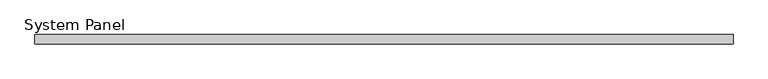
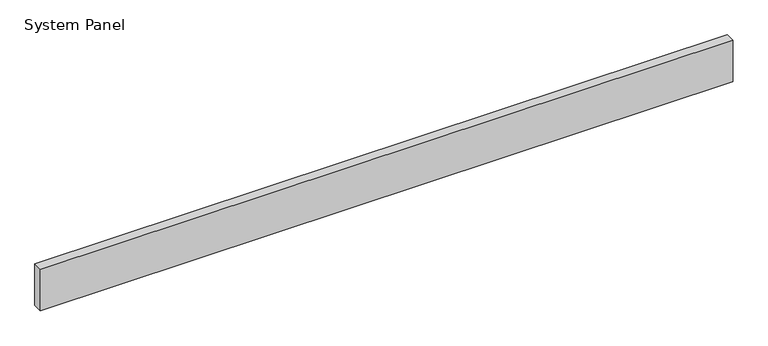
"""IFC4 building model written with IfcOpenShell, lengths in millimetres: plate geometry, System Panel : Inspire 80mm Horizontal - Plain RHEA-PIR."""

import ifcopenshell
import ifcopenshell.guid

model = None  # the IFC model being written
_history = None  # IfcOwnerHistory: only IFC2X3 demands one
_inside = {}  # id of a spatial element -> (the spatial element, [elements in it])
_under = {}  # id of a project, library or spatial element -> (it, [spatial elements below it])
_declared = {}  # id of a project -> (the project, [libraries it declares])
_typed = {}  # id of a type object -> (the type object, [elements of that type])
_made_of = {}  # id of a material, layer set ... -> (it, [elements and type objects made of it])


def new_model(schema):
    """Start an empty IFC model of exactly this schema.

    Asked for "IFC4X3", IfcOpenShell would pick the latest addendum, in which some entities
    have other attributes; the version numbers below select the first issue.
    IFC2X3 requires an IfcOwnerHistory on every rooted entity: one is made here for all.
    """
    global model, _history
    if schema == "IFC4X3":
        model = ifcopenshell.file(schema_version=(4, 3, 0, 0))
    else:
        model = ifcopenshell.file(schema=schema)
    _inside.clear()
    _under.clear()
    _declared.clear()
    _typed.clear()
    _made_of.clear()
    _history = None
    if model.schema == "IFC2X3":
        org = make("IfcOrganization", Name="unknown")
        user = make(
            "IfcPersonAndOrganization",
            ThePerson=make("IfcPerson", FamilyName="unknown"),
            TheOrganization=org,
        )
        app = make(
            "IfcApplication",
            ApplicationDeveloper=org,
            Version="unknown",
            ApplicationFullName="unknown",
            ApplicationIdentifier="unknown",
        )
        _history = make(
            "IfcOwnerHistory",
            OwningUser=user,
            OwningApplication=app,
            ChangeAction="ADDED",
            CreationDate=0,
        )
    return model


def make(cls, **values):
    """One entity of the class cls with the attributes given. An attribute that is None is left unset."""
    return model.create_entity(
        cls, **{name: value for name, value in values.items() if value is not None}
    )


def rooted(cls, **values):
    """An entity with a GlobalId (a new one), such as an element, a storey or a relation."""
    return make(cls, GlobalId=ifcopenshell.guid.new(), OwnerHistory=_history, **values)


def si_unit(unit_type, name, prefix=None):
    """IfcSIUnit, for example si_unit("LENGTHUNIT", "METRE", prefix="MILLI")."""
    return make("IfcSIUnit", UnitType=unit_type, Prefix=prefix, Name=name)


def assignment(units):
    """IfcUnitAssignment: the units of a project."""
    return None if units is None else make("IfcUnitAssignment", Units=units)


def point(xyz):
    """IfcCartesianPoint."""
    return None if xyz is None else make("IfcCartesianPoint", Coordinates=xyz)


def direction(xyz):
    """IfcDirection."""
    return None if xyz is None else make("IfcDirection", DirectionRatios=xyz)


def frame(location, z_axis=None, x_axis=None):
    """IfcAxis2Placement3D, a coordinate frame: its origin and axes. An axis left out is left unset."""
    return make(
        "IfcAxis2Placement3D",
        Location=point(location),
        Axis=direction(z_axis),
        RefDirection=direction(x_axis),
    )


def origin():
    """The frame at (0, 0, 0) with its axes left unset."""
    return frame((0.0, 0.0, 0.0))


def origin_with_axes():
    """The frame at (0, 0, 0) with the z axis (0, 0, 1) and the x axis (1, 0, 0) written out."""
    return frame((0.0, 0.0, 0.0), z_axis=(0.0, 0.0, 1.0), x_axis=(1.0, 0.0, 0.0))


def place(relative_to, where):
    """IfcLocalPlacement: puts the frame where relative to a parent placement (None: the world)."""
    return make(
        "IfcLocalPlacement", PlacementRelTo=relative_to, RelativePlacement=where
    )


def context(
    kind, dimensions, precision=None, world=None, true_north=None, identifier=None
):
    """IfcGeometricRepresentationContext, for example the 3D "Model" context."""
    return make(
        "IfcGeometricRepresentationContext",
        ContextIdentifier=identifier,
        ContextType=kind,
        CoordinateSpaceDimension=dimensions,
        Precision=precision,
        WorldCoordinateSystem=world,
        TrueNorth=true_north,
    )


def project(units=None, contexts=None):
    """IfcProject with its units and contexts."""
    return rooted(
        "IfcProject",
        Name="project",
        RepresentationContexts=contexts,
        UnitsInContext=assignment(units),
    )


def spatial(cls, under=None, at=None, **own):
    """A site, building, storey or space (cls), placed at a placement, below another one or the project."""
    s = rooted(cls, ObjectPlacement=at, **own)
    if under is not None:
        _under.setdefault(under.id(), (under, []))[1].append(s)
    return s


def polyline(points):
    """IfcPolyline through the points."""
    return make("IfcPolyline", Points=[point(p) for p in points])


def outline(outer, holes=None, kind="AREA"):
    """IfcArbitraryClosedProfileDef: a profile drawn as a closed curve; with holes, ...WithVoids."""
    if holes is None:
        return make("IfcArbitraryClosedProfileDef", ProfileType=kind, OuterCurve=outer)
    return make(
        "IfcArbitraryProfileDefWithVoids",
        ProfileType=kind,
        OuterCurve=outer,
        InnerCurves=holes,
    )


def extrude(swept, where, along, depth):
    """IfcExtrudedAreaSolid: the profile swept, set in the frame where, extruded along a direction by depth."""
    return make(
        "IfcExtrudedAreaSolid",
        SweptArea=swept,
        Position=where,
        ExtrudedDirection=direction(along),
        Depth=depth,
    )


def shape(context_of_items, identifier, shape_type, items):
    """IfcShapeRepresentation: the items that make up one representation, for example the "Body"."""
    return make(
        "IfcShapeRepresentation",
        ContextOfItems=context_of_items,
        RepresentationIdentifier=identifier,
        RepresentationType=shape_type,
        Items=items,
    )


def source(mapping_origin, context_of_items, identifier, shape_type, items):
    """IfcRepresentationMap: a shape defined once, which mapped items show again and again."""
    return make(
        "IfcRepresentationMap",
        MappingOrigin=mapping_origin,
        MappedRepresentation=shape(context_of_items, identifier, shape_type, items),
    )


def transform(
    local_origin,
    x_axis=None,
    y_axis=None,
    z_axis=None,
    scale=None,
    scale2=None,
    scale3=None,
    uniform=True,
):
    """IfcCartesianTransformationOperator3D, or its non-uniform kind. x_axis, y_axis, z_axis: its Axis1, 2, 3."""
    if uniform:
        return make(
            "IfcCartesianTransformationOperator3D",
            Axis1=direction(x_axis),
            Axis2=direction(y_axis),
            LocalOrigin=point(local_origin),
            Scale=scale,
            Axis3=direction(z_axis),
        )
    return make(
        "IfcCartesianTransformationOperator3DnonUniform",
        Axis1=direction(x_axis),
        Axis2=direction(y_axis),
        LocalOrigin=point(local_origin),
        Scale=scale,
        Axis3=direction(z_axis),
        Scale2=scale2,
        Scale3=scale3,
    )


def mapped(mapping_source, mapping_target):
    """IfcMappedItem: shows the shape of a source again, moved by a transform."""
    return make(
        "IfcMappedItem", MappingSource=mapping_source, MappingTarget=mapping_target
    )


def made_of(thing, what):
    """Note that an element or type object is made of a material, layer set ...; save() writes the relation."""
    if what is not None:
        _made_of.setdefault(what.id(), (what, []))[1].append(thing)
    return thing


def element(
    cls,
    number,
    at=None,
    inside=None,
    cuts=None,
    type_object=None,
    material=None,
    context=None,
    identifier="Body",
    shape_type=None,
    held_by="IfcProductDefinitionShape",
    body=None,
    shapes=None,
    **own,
):
    """One element of the class cls, such as IfcWall. Its Tag is "e" and its number.

    at: its placement. inside: the storey or other place that contains it. cuts: it is an
    opening in that element (IfcRelVoidsElement). A single representation is given by context,
    identifier, shape_type and body (its items); several are given by shapes. held_by: the class
    of the entity that holds the representations. save() writes the other relations.
    """
    e = rooted(cls, Tag="e%d" % number, ObjectPlacement=at, **own)
    if body is not None:
        shapes = [shape(context, identifier, shape_type, body)]
    if shapes is not None:
        e.Representation = make(held_by, Representations=shapes)
    if inside is not None:
        _inside.setdefault(inside.id(), (inside, []))[1].append(e)
    if cuts is not None:
        rooted(
            "IfcRelVoidsElement", RelatingBuildingElement=cuts, RelatedOpeningElement=e
        )
    if type_object is not None:
        _typed.setdefault(type_object.id(), (type_object, []))[1].append(e)
    return made_of(e, material)


def aggregate(whole, parts):
    """IfcRelAggregates: a whole, such as a stair, and the parts it consists of."""
    return rooted("IfcRelAggregates", RelatingObject=whole, RelatedObjects=parts)


def save(model, path):
    """Write the relations noted so far, then the file.

    IfcRelAggregates (storeys below a building ...), IfcRelContainedInSpatialStructure (elements
    in a storey), IfcRelDefinesByType, IfcRelAssociatesMaterial and IfcRelDeclares: one each for
    every whole, place, type object, material and project.
    """
    for whole, parts in _under.values():
        aggregate(whole, parts)
    for where, things in _inside.values():
        rooted(
            "IfcRelContainedInSpatialStructure",
            RelatedElements=things,
            RelatingStructure=where,
        )
    for kind, things in _typed.values():
        rooted("IfcRelDefinesByType", RelatedObjects=things, RelatingType=kind)
    for what, things in _made_of.values():
        rooted("IfcRelAssociatesMaterial", RelatedObjects=things, RelatingMaterial=what)
    for by, libraries in _declared.values():
        rooted("IfcRelDeclares", RelatingContext=by, RelatedDefinitions=libraries)
    model.write(path)


def system_panel_bf0b8bad(model_context):
    return source(origin(), model_context, "Body", "SweptSolid", [
        extrude(outline(polyline([(2990.0, -80.0), (-2990.0, -80.0), (-2990.0, 0.0), (2990.0, 0.0), (2990.0, -80.0)])), origin_with_axes(), (0.0, 0.0, 1.0), 379.9704237),
    ])


if __name__ == "__main__":
    model = new_model("IFC4")
    model_context = context("Model", 3, world=origin())
    ifc_project = project(units=[si_unit("LENGTHUNIT", "METRE", prefix="MILLI")], contexts=[model_context])
    site = spatial("IfcSite", under=ifc_project)
    building = spatial("IfcBuilding", under=site)
    placement = place(None, origin())
    system_panel_shape = system_panel_bf0b8bad(model_context)
    element("IfcPlate", 1, ObjectType="System Panel : Inspire 80mm Horizontal - Plain RHEA-PIR", at=placement, inside=building, context=model_context, shape_type="MappedRepresentation", body=[
        mapped(system_panel_shape, transform((0.0, 0.0, 0.0), x_axis=(1.0, 0.0, 0.0), y_axis=(0.0, 1.0, 0.0), z_axis=(0.0, 0.0, 1.0))),
    ])
    save(model, "model.ifc")
